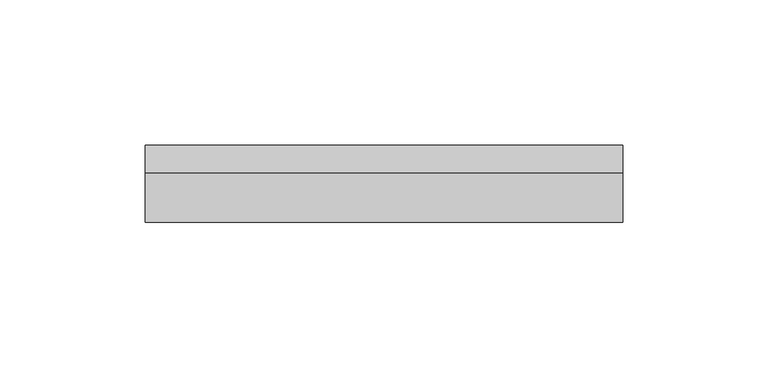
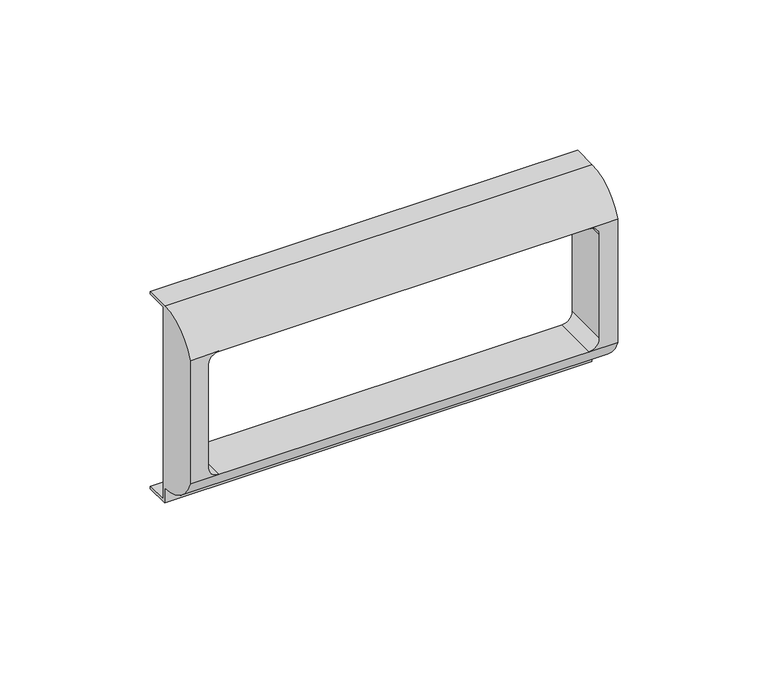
"""IFC4 building model written with IfcOpenShell, lengths in millimetres: proxy geometry."""

from ifc_helpers import new_model, si_unit, frame, origin, place, context, project, spatial, polyline, circle_curve, source, transform, mapped, element, save
from ifc_brep_helpers import plane_surface, cylinder_surface, revolved_surface, advanced_brep


def electrical_fixtures_2c16e1f9(model_context):
    return source(origin(), model_context, "Body", "AdvancedBrep", [
        advanced_brep(
        [(82.0, 8.4, 39.0), (82.0, 8.4, 40.0), (82.0, -1.0, 40.0), (82.0, -18.0, 28.0), (82.0, -18.0, -22.0), (82.0, -1.0, -34.0), (82.0, -1.0, -40.0), (82.0, 8.4, -40.0), (82.0, 8.4, -39.0), (82.0, 0.0, -39.0), (82.0, 0.0, 39.0), (-82.0, 8.4, 39.0), (-82.0, 0.0, 39.0), (-82.0, 0.0, -39.0), (-82.0, 8.4, -39.0), (-82.0, 8.4, -40.0), (-82.0, -1.0, -40.0), (-82.0, -1.0, -34.0), (-82.0, -18.0, -22.0), (-82.0, -18.0, 28.0), (-82.0, -1.0, 40.0), (-82.0, 8.4, 40.0), (70.9686648, -18.0, 28.0), (75.0, -18.0, 23.9686648), (75.0, -18.0, -17.9686648), (70.9686648, -18.0, -22.0), (-70.9686648, -18.0, -22.0), (-75.0, -18.0, -17.9686648), (-75.0, -18.0, 23.9686648), (-70.9686648, -18.0, 28.0), (70.9686648, 0.0, 28.0), (-70.9686648, 0.0, 28.0), (-75.0, 0.0, 23.9686648), (-75.0, 0.0, -17.9686648), (-70.9686648, 0.0, -22.0), (70.9686648, 0.0, -22.0), (75.0, 0.0, -17.9686648), (75.0, 0.0, 23.9686648)],
        [
            (0, 1),
            (1, 2),
            (2, 3, circle_curve(frame((82.0, -1.0, 21.9583333), z_axis=(1.0, 0.0, 0.0), x_axis=(0.0, 1.0, 0.0)), 18.0416667)),
            (3, 4),
            (4, 5, circle_curve(frame((82.0, -1.0, -15.9583333), z_axis=(1.0, 0.0, 0.0), x_axis=(0.0, 1.0, 0.0)), 18.0416667)),
            (5, 6),
            (6, 7),
            (7, 8),
            (8, 9),
            (9, 10),
            (10, 0),
            (11, 12),
            (12, 13),
            (13, 14),
            (14, 15),
            (15, 16),
            (16, 17),
            (17, 18, circle_curve(frame((-82.0, -1.0, -15.9583333), z_axis=(-1.0, 0.0, 0.0), x_axis=(0.0, 1.0, 0.0)), 18.0416667)),
            (18, 19),
            (19, 20, circle_curve(frame((-82.0, -1.0, 21.9583333), z_axis=(-1.0, 0.0, 0.0), x_axis=(0.0, 1.0, 0.0)), 18.0416667)),
            (20, 21),
            (21, 11),
            (0, 11),
            (21, 1),
            (20, 2),
            (3, 22),
            (22, 23, circle_curve(frame((70.9686648, -18.0, 23.9686648), z_axis=(0.0, 1.0, 0.0), x_axis=(1.0, 0.0, 0.0)), 4.0313352)),
            (23, 24),
            (24, 25, circle_curve(frame((70.9686648, -18.0, -17.9686648), z_axis=(0.0, 1.0, 0.0), x_axis=(1.0, 0.0, 0.0)), 4.0313352)),
            (25, 4),
            (18, 26),
            (26, 27, circle_curve(frame((-70.9686648, -18.0, -17.9686648), z_axis=(0.0, 1.0, 0.0), x_axis=(1.0, 0.0, 0.0)), 4.0313352)),
            (27, 28),
            (28, 29, circle_curve(frame((-70.9686648, -18.0, 23.9686648), z_axis=(0.0, 1.0, 0.0), x_axis=(1.0, 0.0, 0.0)), 4.0313352)),
            (29, 19),
            (5, 17),
            (16, 6),
            (15, 7),
            (14, 8),
            (13, 9),
            (12, 10),
            (30, 31),
            (31, 32, circle_curve(frame((-70.9686648, 0.0, 23.9686648), z_axis=(0.0, -1.0, 0.0), x_axis=(1.0, 0.0, 0.0)), 4.0313352)),
            (32, 33),
            (33, 34, circle_curve(frame((-70.9686648, 0.0, -17.9686648), z_axis=(0.0, -1.0, 0.0), x_axis=(1.0, 0.0, 0.0)), 4.0313352)),
            (34, 35),
            (35, 36, circle_curve(frame((70.9686648, 0.0, -17.9686648), z_axis=(0.0, -1.0, 0.0), x_axis=(1.0, 0.0, 0.0)), 4.0313352)),
            (36, 37),
            (37, 30, circle_curve(frame((70.9686648, 0.0, 23.9686648), z_axis=(0.0, -1.0, 0.0), x_axis=(1.0, 0.0, 0.0)), 4.0313352)),
            (29, 22),
            (25, 26),
            (29, 31),
            (30, 22),
            (28, 32),
            (27, 33),
            (26, 34),
            (25, 35),
            (24, 36),
            (23, 37),
        ],
        [
            plane_surface(frame((82.0, 8.4, 40.0), z_axis=(1.0, 0.0, 0.0), x_axis=(0.0, 0.0, 1.0))),
            plane_surface(frame((-82.0, 8.4, 40.0), z_axis=(-1.0, 0.0, 0.0), x_axis=(0.0, 0.0, -1.0))),
            plane_surface(frame((82.0, 8.4, 39.0), z_axis=(0.0, 1.0, 0.0), x_axis=(-1.0, 0.0, 0.0))),
            plane_surface(frame((82.0, 8.4, 40.0), z_axis=(0.0, 0.0, 1.0), x_axis=(-1.0, 0.0, 0.0))),
            plane_surface(frame((82.0, -18.0, 28.0), z_axis=(0.0, -1.0, 0.0), x_axis=(-1.0, 0.0, 0.0))),
            plane_surface(frame((82.0, -1.0, -34.0), z_axis=(0.0, -1.0, 0.0), x_axis=(-1.0, 0.0, 0.0))),
            plane_surface(frame((82.0, -1.0, -40.0), z_axis=(0.0, 0.0, -1.0), x_axis=(-1.0, 0.0, 0.0))),
            plane_surface(frame((82.0, 8.4, -40.0), z_axis=(0.0, 1.0, 0.0), x_axis=(-1.0, 0.0, 0.0))),
            plane_surface(frame((82.0, 8.4, -39.0), z_axis=(0.0, 0.0, 1.0), x_axis=(-1.0, 0.0, 0.0))),
            plane_surface(frame((82.0, 0.0, -39.0), z_axis=(0.0, 1.0, 0.0), x_axis=(-1.0, 0.0, 0.0))),
            plane_surface(frame((82.0, 0.0, 39.0), z_axis=(0.0, 0.0, -1.0), x_axis=(-1.0, 0.0, 0.0))),
            cylinder_surface(frame((-82.0, -1.0, 21.9583333), z_axis=(1.0, 0.0, 0.0), x_axis=(0.0, 1.0, 0.0)), 18.0416667),
            cylinder_surface(frame((-82.0, -1.0, -15.9583333), z_axis=(1.0, 0.0, 0.0), x_axis=(0.0, 1.0, 0.0)), 18.0416667),
            plane_surface(frame((70.9686648, -18.0, 28.0), z_axis=(0.0, 0.0, -1.0), x_axis=(0.0, 1.0, 0.0))),
            revolved_surface(polyline([(-66.9373296, -18.0, 23.9686648), (-66.9373296, 0.0, 23.9686648)]), (-70.9686648, 0.0, 23.9686648), (0.0, -1.0, 0.0)),
            plane_surface(frame((-75.0, -18.0, 23.9686648), z_axis=(1.0, 0.0, 0.0), x_axis=(0.0, 1.0, 0.0))),
            revolved_surface(polyline([(-66.9373296, -18.0, -17.9686648), (-66.9373296, 0.0, -17.9686648)]), (-70.9686648, 0.0, -17.9686648), (0.0, -1.0, 0.0)),
            plane_surface(frame((-70.9686648, -18.0, -22.0), z_axis=(0.0, 0.0, 1.0), x_axis=(0.0, 1.0, 0.0))),
            revolved_surface(polyline([(75.0, -18.0, -17.9686648), (75.0, 0.0, -17.9686648)]), (70.9686648, 0.0, -17.9686648), (0.0, -1.0, 0.0)),
            plane_surface(frame((75.0, -18.0, -17.9686648), z_axis=(-1.0, 0.0, 0.0), x_axis=(0.0, 1.0, 0.0))),
            revolved_surface(polyline([(75.0, -18.0, 23.9686648), (75.0, 0.0, 23.9686648)]), (70.9686648, 0.0, 23.9686648), (0.0, -1.0, 0.0)),
        ],
        [
            (0, [[1, 2, 3, 4, 5, 6, 7, 8, 9, 10, 11]]),
            (1, [[12, 13, 14, 15, 16, 17, 18, 19, 20, 21, 22]]),
            (2, [[-1, 23, -22, 24]]),
            (3, [[-2, -24, -21, 25]]),
            (4, [[-4, 26, 27, 28, 29, 30]]),
            (4, [[-19, 31, 32, 33, 34, 35]]),
            (5, [[-6, 36, -17, 37]]),
            (6, [[-7, -37, -16, 38]]),
            (7, [[-8, -38, -15, 39]]),
            (8, [[-9, -39, -14, 40]]),
            (9, [[-10, -40, -13, 41], [42, 43, 44, 45, 46, 47, 48, 49]]),
            (10, [[-11, -41, -12, -23]]),
            (11, [[-3, -25, -20, -35, 50, -26]]),
            (12, [[-5, -30, 51, -31, -18, -36]]),
            (13, [[52, -42, 53, -50]]),
            (14, [[-52, -34, 54, -43]]),
            (15, [[-54, -33, 55, -44]]),
            (16, [[-55, -32, 56, -45]]),
            (17, [[-56, -51, 57, -46]]),
            (18, [[-57, -29, 58, -47]]),
            (19, [[-58, -28, 59, -48]]),
            (20, [[-53, -49, -59, -27]]),
        ],
    ),
    ])


if __name__ == "__main__":
    model = new_model("IFC4")
    model_context = context("Model", 3, world=origin())
    ifc_project = project(units=[si_unit("LENGTHUNIT", "METRE", prefix="MILLI")], contexts=[model_context])
    site = spatial("IfcSite", under=ifc_project)
    building = spatial("IfcBuilding", under=site)
    placement = place(None, origin())
    electrical_fixtures_shape = electrical_fixtures_2c16e1f9(model_context)
    element("IfcBuildingElementProxy", 1, Name="КНС_РамкаСуппорт_ILC_DKC : Серия \"Viva\"", ObjectType="КНС_РамкаСуппорт_ILC_DKC : Серия \"Viva\"", at=placement, inside=building, context=model_context, shape_type="MappedRepresentation", body=[
        mapped(electrical_fixtures_shape, transform((0.0, 0.0, 0.0), x_axis=(1.0, 0.0, 0.0), y_axis=(0.0, 1.0, 0.0), z_axis=(0.0, 0.0, 1.0))),
    ])
    save(model, "model.ifc")
